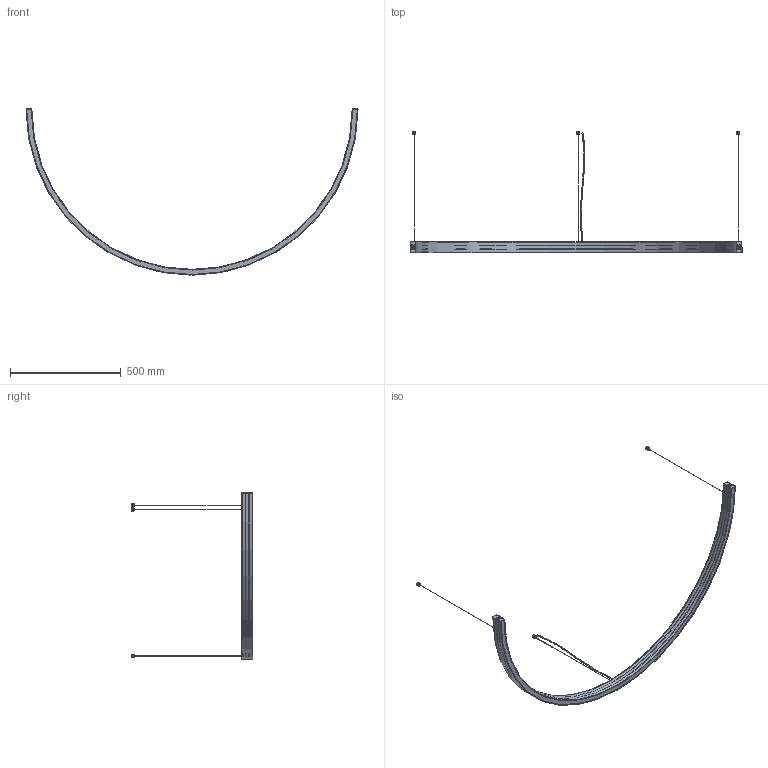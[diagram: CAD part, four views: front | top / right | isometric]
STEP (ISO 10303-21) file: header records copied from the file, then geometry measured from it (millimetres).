
FILE_DESCRIPTION (( 'STEP AP203' ), '1' );
FILE_NAME ('3D ZIRKOL ARCO 1,5M.STEP', '2023-03-21T15:59:39', ( '' ), ( '' ), 'SwSTEP 2.0', 'SolidWorks 2016', '' );
FILE_SCHEMA (( 'CONFIG_CONTROL_DESIGN' ));
Length unit declared in the file: millimetre
Products named in the file (10): 0-MAS-0375-1-00 Cavetto inox; 1-MAS-0380-0-00 Gripper; (Gripper+sospensione+rosoncino); 1-MAS-0378-0-00 Rosone nichelato; Schermo arco 1,5M; 1-MAS-0379-0-00 Attacco rosone; Estruso Zirkol arco 1,5M; 3-CLE-0846-0-00 Cavo guaina trasparente down; 3D ZIRKOL ARCO 1,5M; 6-SLK-0003-0-00 Testata
Assembly tree (12 placements, depth 3):
  3D ZIRKOL ARCO 1,5M
    6-SLK-0003-0-00 Testata  x2
    (Gripper+sospensione+rosoncino)  x3
      1-MAS-0380-0-00 Gripper
      0-MAS-0375-1-00 Cavetto inox
      1-MAS-0379-0-00 Attacco rosone
      1-MAS-0378-0-00 Rosone nichelato
    3-CLE-0846-0-00 Cavo guaina trasparente down
    Schermo arco 1,5M
    Estruso Zirkol arco 1,5M
Bounding box: 1500 x 548.57 x 752 mm (x, y, z)
Volume: 810869.7 mm3; surface area: 857979.3 mm2
Topology: 20 solids, 20 shells, 923 faces, 2481 edges, 1616 vertices
Faces by surface type: plane 351, cylinder 268, torus 129, bspline 109, cone 66
Entity records: 21181 total; most frequent: CARTESIAN_POINT 9380, ORIENTED_EDGE 2352, DIRECTION 2180, EDGE_CURVE 1176, AXIS2_PLACEMENT_3D 793, VERTEX_POINT 772, VECTOR 594, LINE 594
